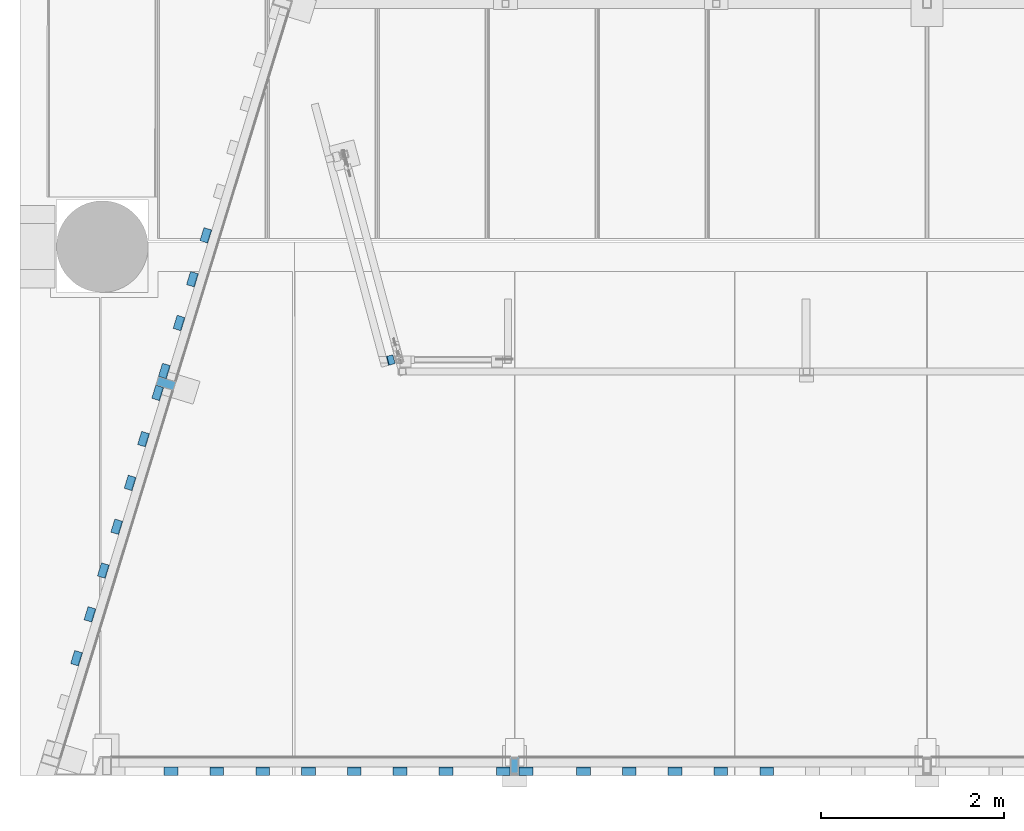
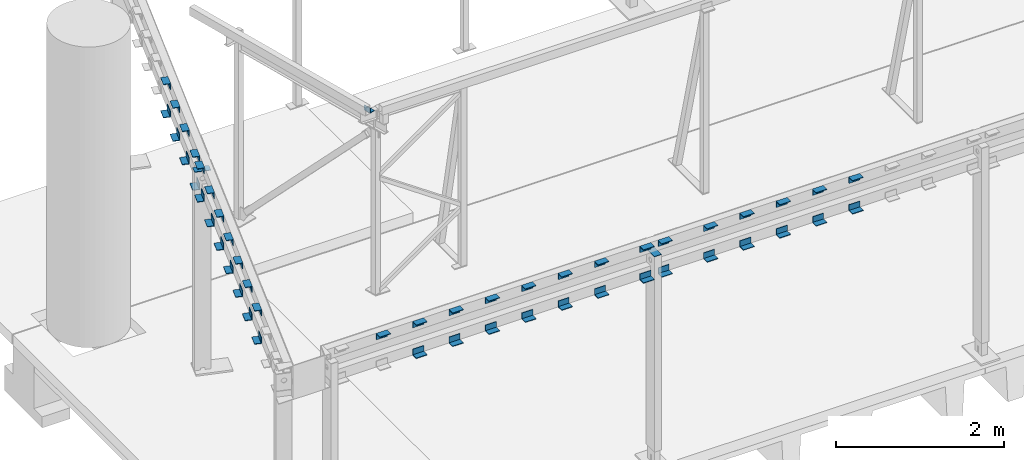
# One storey, part 12 of 19: 52 beams.
"""IFC2X3 building model written with IfcOpenShell, lengths in millimetres."""

from ifc_helpers import new_model, entity, si_unit, converted_unit, derived_unit, direction, frame, origin_with_axes, place, context, subcontext, project, spatial, faceted_brep, material, type_object, element, save


model = new_model("IFC2X3")

# Units and contexts
model_context = context("Model", 3, precision=0.01, world=frame((0.0, 4.29681676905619e-09, 0.0)), true_north=direction((4.01073788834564e-13, 1.0)))
plan_context = context("Plan", 3, precision=0.01, world=frame((0.0, 4.29681676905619e-09, 0.0)), true_north=direction((4.01073788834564e-13, 1.0)))
body_context = subcontext(model_context, "Body", "Model", "MODEL_VIEW")
ifc_project = project(units=[converted_unit("PLANEANGLEUNIT", "DEGREE", entity("IfcPositiveLengthMeasure", 0.0174532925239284), si_unit("PLANEANGLEUNIT", "RADIAN"), dimensions=[0, 0, 0, 0, 0, 0, 0]), si_unit("AREAUNIT", "SQUARE_METRE"), si_unit("LENGTHUNIT", "METRE", prefix="MILLI"), si_unit("MASSUNIT", "GRAM", prefix="KILO"), si_unit("POWERUNIT", "WATT"), si_unit("PRESSUREUNIT", "PASCAL", prefix="KILO"), si_unit("FORCEUNIT", "NEWTON", prefix="KILO"), si_unit("ELECTRICVOLTAGEUNIT", "VOLT"), si_unit("ELECTRICCURRENTUNIT", "AMPERE"), si_unit("THERMODYNAMICTEMPERATUREUNIT", "DEGREE_CELSIUS"), si_unit("TIMEUNIT", "SECOND"), si_unit("VOLUMEUNIT", "CUBIC_METRE"), derived_unit("LINEARVELOCITYUNIT", [(si_unit("LENGTHUNIT", "METRE"), 1), (si_unit("TIMEUNIT", "SECOND"), -1)]), derived_unit("VOLUMETRICFLOWRATEUNIT", [(si_unit("VOLUMEUNIT", "CUBIC_METRE"), 1), (si_unit("TIMEUNIT", "SECOND"), -1)]), derived_unit("THERMALTRANSMITTANCEUNIT", [(si_unit("POWERUNIT", "WATT"), 1), (si_unit("THERMODYNAMICTEMPERATUREUNIT", "KELVIN"), -1), (si_unit("AREAUNIT", "SQUARE_METRE"), -1)]), derived_unit("SOUNDPRESSUREUNIT", [(si_unit("PRESSUREUNIT", "PASCAL"), 1)])], contexts=[model_context, plan_context])

# Site, building, storey
site_placement = place(None, frame((0.0, -4.29681676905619e-09, 0.0), z_axis=(0.0, 0.0, 1.0), x_axis=(1.0, 0.0, 0.0)))
site = spatial("IfcSite", under=ifc_project, at=site_placement, Name="Gardermoen", CompositionType="ELEMENT")
building_placement = place(site_placement, frame((0.0, 4.29681676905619e-09, 0.0), z_axis=(0.0, 0.0, 1.0), x_axis=(1.0, 0.0, 0.0)))
building = spatial("IfcBuilding", under=site, at=building_placement, Name="TI", CompositionType="ELEMENT")
storey_placement = place(building_placement, origin_with_axes())
storey = spatial("IfcBuildingStorey", under=building, at=storey_placement, Name="F", CompositionType="ELEMENT", Elevation=0.0)

# Beams
ifc_material_1 = material(Name="STEEL/S355")
beam_type_1 = type_object("IfcBeamType", Name="PL8*100", PredefinedType="NOTDEFINED")
beam_1_placement = place(storey_placement, frame((587450.000043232, 569930.0, 213740.999618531), z_axis=(1.0, 0.0, 0.0), x_axis=(0.0, -1.0, 0.0)))
element("IfcBeam", 1, at=beam_1_placement, inside=storey, type_object=beam_type_1, material=ifc_material_1, Name="STÅLBJELKE", ObjectType="PL8*100", context=body_context, shape_type="Brep", body=[
    faceted_brep([(-5.82076609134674e-11, -3.99999999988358, 0.0), (3.95812094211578e-09, -3.99999999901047, 100.000000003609), (4.30736690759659e-09, 4.00000000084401, 100.000000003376), (-5.82076609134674e-11, 4.00000000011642, -5.82076609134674e-11), (199.999999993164, -4.0, 99.9999999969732), (199.999999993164, 4.0, 99.9999999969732), (200.0, -4.0, -1.97906047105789e-09), (200.0, 4.00000000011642, -1.62981450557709e-09)], [[[0, 1, 2, 3]], [[1, 4, 5, 2]], [[4, 6, 7, 5]], [[6, 0, 3, 7]], [[5, 7, 3, 2]], [[6, 4, 1, 0]]]),
])
beam_2_placement = place(storey_placement, frame((583804.084982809, 574025.269022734, 213741.000686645), z_axis=(-0.956304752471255, 0.292371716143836, 0.0), x_axis=(-0.292371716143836, -0.956304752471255, 0.0)))
element("IfcBeam", 2, at=beam_2_placement, inside=storey, type_object=beam_type_1, material=ifc_material_1, Name="STÅLBJELKE", ObjectType="PL8*100", context=body_context, shape_type="Brep", body=[
    faceted_brep([(-5.82076609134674e-11, -3.99999999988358, 0.0), (3.84170562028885e-09, -4.0, 199.999999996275), (3.84170562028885e-09, 4.0, 199.999999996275), (-5.82076609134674e-11, 4.00000000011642, -5.82076609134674e-11), (100.000000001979, -4.0, 199.999999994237), (100.000000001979, 4.0, 199.999999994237), (100.0, -4.0, 0.0), (100.0, 4.0, 0.0)], [[[0, 1, 2, 3]], [[1, 4, 5, 2]], [[4, 6, 7, 5]], [[6, 0, 3, 7]], [[5, 7, 3, 2]], [[6, 4, 1, 0]]]),
])
beam_type_2 = type_object("IfcBeamType", Name="L90*9", PredefinedType="NOTDEFINED")
for number, where, z_axis, x_axis in (
    (3, (583815.959533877, 574594.137220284, 213450.001068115), (-0.956310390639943, 0.292353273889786, -5.79999804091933e-08), (0.292353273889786, 0.956310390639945, -3.30052303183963e-14)),
    (4, (583815.959533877, 574594.137220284, 213850.001068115), (0.0, 0.0, -1.0), (0.292353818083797, 0.956310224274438, 0.0)),
    (5, (583962.139533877, 575072.297220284, 213450.001068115), (-0.956310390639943, 0.292353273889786, -5.79999804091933e-08), (0.292353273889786, 0.956310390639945, -3.30052303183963e-14)),
    (6, (583962.139533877, 575072.297220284, 213850.001068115), (0.0, 0.0, -1.0), (0.292353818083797, 0.956310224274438, 0.0)),
    (7, (584108.319533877, 575550.457220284, 213450.001068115), (-0.956310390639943, 0.292353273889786, -5.79999804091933e-08), (0.292353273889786, 0.956310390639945, -3.30052303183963e-14)),
    (8, (584108.319533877, 575550.457220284, 213850.001068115), (0.0, 0.0, -1.0), (0.292353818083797, 0.956310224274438, 0.0)),
    (9, (582697.629533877, 570936.277220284, 213450.001068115), (-0.956310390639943, 0.292353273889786, -5.79999804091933e-08), (0.292353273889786, 0.956310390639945, -3.30052303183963e-14)),
    (10, (582697.629533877, 570936.277220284, 213850.001068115), (0.0, 0.0, -1.0), (0.292353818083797, 0.956310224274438, 0.0)),
    (11, (582843.809533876, 571414.437220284, 213450.001068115), (-0.956310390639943, 0.292353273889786, -5.79999804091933e-08), (0.292353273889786, 0.956310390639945, -3.30052303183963e-14)),
    (12, (582843.809533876, 571414.437220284, 213850.001068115), (0.0, 0.0, -1.0), (0.292353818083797, 0.956310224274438, 0.0)),
    (13, (583428.529533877, 573327.077220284, 213450.001068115), (-0.956310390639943, 0.292353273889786, -5.79999804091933e-08), (0.292353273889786, 0.956310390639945, -3.30052303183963e-14)),
    (14, (583428.529533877, 573327.077220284, 213850.001068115), (0.0, 0.0, -1.0), (0.292353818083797, 0.956310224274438, 0.0)),
    (15, (583282.349533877, 572848.917220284, 213450.001068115), (-0.956310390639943, 0.292353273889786, -5.79999804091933e-08), (0.292353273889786, 0.956310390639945, -3.30052303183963e-14)),
    (16, (583282.349533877, 572848.917220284, 213850.001068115), (0.0, 0.0, -1.0), (0.292353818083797, 0.956310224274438, 0.0)),
    (17, (583136.169533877, 572370.757220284, 213450.001068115), (-0.956310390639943, 0.292353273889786, -5.79999804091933e-08), (0.292353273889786, 0.956310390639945, -3.30052303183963e-14)),
    (18, (583136.169533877, 572370.757220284, 213850.001068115), (0.0, 0.0, -1.0), (0.292353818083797, 0.956310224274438, 0.0)),
    (19, (583824.999978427, 569774.999964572, 213850.001068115), (0.0, 0.0, -1.0), (-0.999999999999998, 5.80000057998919e-08, 0.0)),
    (20, (584324.999978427, 569774.999964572, 213450.001068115), (-5.80000057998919e-08, -0.999999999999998, 0.0), (-0.999999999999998, 5.80000057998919e-08, 0.0)),
    (21, (584324.999978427, 569774.999964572, 213850.001068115), (0.0, 0.0, -1.0), (-0.999999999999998, 5.80000057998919e-08, 0.0)),
    (22, (584824.999978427, 569774.999964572, 213450.001068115), (-5.80000057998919e-08, -0.999999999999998, 0.0), (-0.999999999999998, 5.80000057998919e-08, 0.0)),
    (23, (584824.999978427, 569774.999964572, 213850.001068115), (0.0, 0.0, -1.0), (-0.999999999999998, 5.80000057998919e-08, 0.0)),
    (24, (586824.999978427, 569774.999964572, 213450.001068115), (-5.80000057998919e-08, -0.999999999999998, 0.0), (-0.999999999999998, 5.80000057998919e-08, 0.0)),
    (25, (586824.999978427, 569774.999964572, 213850.001068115), (0.0, 0.0, -1.0), (-0.999999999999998, 5.80000057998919e-08, 0.0)),
    (26, (586324.999978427, 569774.999964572, 213450.001068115), (-5.80000057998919e-08, -0.999999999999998, 0.0), (-0.999999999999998, 5.80000057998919e-08, 0.0)),
    (27, (586324.999978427, 569774.999964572, 213850.001068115), (0.0, 0.0, -1.0), (-0.999999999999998, 5.80000057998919e-08, 0.0)),
    (28, (585824.999978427, 569774.999964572, 213450.001068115), (-5.80000057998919e-08, -0.999999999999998, 0.0), (-0.999999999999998, 5.80000057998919e-08, 0.0)),
    (29, (585824.999978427, 569774.999964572, 213850.001068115), (0.0, 0.0, -1.0), (-0.999999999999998, 5.80000057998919e-08, 0.0)),
    (30, (585324.999978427, 569774.999964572, 213450.001068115), (-5.80000057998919e-08, -0.999999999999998, 0.0), (-0.999999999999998, 5.80000057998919e-08, 0.0)),
    (31, (585324.999978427, 569774.999964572, 213850.001068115), (0.0, 0.0, -1.0), (-0.999999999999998, 5.80000057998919e-08, 0.0)),
    (32, (588324.999978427, 569774.999964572, 213450.001068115), (-5.80000057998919e-08, -0.999999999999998, 0.0), (-0.999999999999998, 5.80000057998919e-08, 0.0)),
    (33, (588324.999978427, 569774.999964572, 213850.001068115), (0.0, 0.0, -1.0), (-0.999999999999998, 5.80000057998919e-08, 0.0)),
    (34, (588824.999978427, 569774.999964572, 213450.001068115), (-5.80000057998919e-08, -0.999999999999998, 0.0), (-0.999999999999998, 5.80000057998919e-08, 0.0)),
    (35, (588824.999978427, 569774.999964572, 213850.001068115), (0.0, 0.0, -1.0), (-0.999999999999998, 5.80000057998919e-08, 0.0)),
    (36, (589324.999978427, 569774.999964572, 213450.001068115), (-5.80000057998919e-08, -0.999999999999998, 0.0), (-0.999999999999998, 5.80000057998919e-08, 0.0)),
    (37, (589324.999978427, 569774.999964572, 213850.001068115), (0.0, 0.0, -1.0), (-0.999999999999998, 5.80000057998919e-08, 0.0)),
    (38, (590324.999978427, 569774.999964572, 213450.001068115), (-5.80000057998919e-08, -0.999999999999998, 0.0), (-0.999999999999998, 5.80000057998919e-08, 0.0)),
    (39, (590324.999978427, 569774.999964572, 213850.001068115), (0.0, 0.0, -1.0), (-0.999999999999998, 5.80000057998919e-08, 0.0)),
    (40, (589824.999978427, 569774.999964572, 213450.001068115), (-5.80000057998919e-08, -0.999999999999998, 0.0), (-0.999999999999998, 5.80000057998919e-08, 0.0)),
    (41, (589824.999978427, 569774.999964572, 213850.001068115), (0.0, 0.0, -1.0), (-0.999999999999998, 5.80000057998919e-08, 0.0)),
    (42, (583655.859533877, 574070.577220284, 213450.001068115), (-0.956310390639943, 0.292353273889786, -5.79999804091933e-08), (0.292353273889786, 0.956310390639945, -3.30052303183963e-14)),
    (43, (583655.859533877, 574070.577220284, 213850.001068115), (0.0, 0.0, -1.0), (0.292353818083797, 0.956310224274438, 0.0)),
    (44, (583582.779533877, 573831.507220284, 213450.001068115), (-0.956310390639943, 0.292353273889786, -5.79999804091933e-08), (0.292353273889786, 0.956310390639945, -3.30052303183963e-14)),
    (45, (583582.779533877, 573831.507220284, 213850.001068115), (0.0, 0.0, -1.0), (0.292353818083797, 0.956310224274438, 0.0)),
    (46, (582989.989533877, 571892.597220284, 213450.001068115), (-0.956310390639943, 0.292353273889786, -5.79999804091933e-08), (0.292353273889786, 0.956310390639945, -3.30052303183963e-14)),
    (47, (582989.989533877, 571892.597220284, 213850.001068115), (0.0, 0.0, -1.0), (0.292353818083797, 0.956310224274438, 0.0)),
    (48, (587699.999978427, 569774.999964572, 213450.001068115), (-5.80000057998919e-08, -0.999999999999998, 0.0), (-0.999999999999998, 5.80000057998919e-08, 0.0)),
    (49, (587699.999978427, 569774.999964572, 213850.001068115), (0.0, 0.0, -1.0), (-0.999999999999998, 5.80000057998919e-08, 0.0)),
    (50, (587449.999978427, 569774.999964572, 213450.001068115), (-5.80000057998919e-08, -0.999999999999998, 0.0), (-0.999999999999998, 5.80000057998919e-08, 0.0)),
    (51, (587449.999978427, 569774.999964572, 213850.001068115), (0.0, 0.0, -1.0), (-0.999999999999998, 5.80000057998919e-08, 0.0)),
):
    element("IfcBeam", number, at=place(storey_placement, frame(where, z_axis=z_axis, x_axis=x_axis)), inside=storey, type_object=beam_type_2, material=ifc_material_1, Name="STÅLBJELKE", ObjectType="L90*9", context=body_context, shape_type="Brep", body=[
        faceted_brep([(0.0, 45.0, -45.0), (0.0, 45.0, 45.0), (149.994660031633, 45.0, 44.9999999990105), (149.994660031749, 45.0, -44.9999999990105), (8.14907252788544e-10, 36.0, 44.9999999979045), (149.994660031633, 36.0, 44.9999999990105), (-4.65661287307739e-10, 36.0, -35.9999999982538), (149.994660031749, 36.0, -35.9999999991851), (-4.65661287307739e-10, -45.0, -35.9999999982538), (149.994660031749, -45.0, -35.9999999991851), (0.0, -45.0, -45.0), (149.994660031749, -45.0, -44.9999999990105)], [[[0, 1, 2, 3]], [[1, 4, 5, 2]], [[4, 6, 7, 5]], [[6, 8, 9, 7]], [[8, 10, 11, 9]], [[10, 0, 3, 11]], [[5, 7, 9, 11, 3, 2]], [[10, 8, 6, 4, 1, 0]]]),
    ])
ifc_material_2 = material(Name="STEEL/S355J0")
beam_type_3 = type_object("IfcBeamType", Name="L75*8", PredefinedType="NOTDEFINED")
beam_3_placement = place(storey_placement, frame((586159.890924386, 574213.551604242, 213615.499732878), z_axis=(-2.58819226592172e-10, 9.65933660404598e-10, 1.0), x_axis=(-0.258817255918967, 0.965926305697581, -1.00000761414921e-09)))
element("IfcBeam", 52, at=beam_3_placement, inside=storey, type_object=beam_type_3, material=ifc_material_2, Name="STÅLBJELKE", ObjectType="L75*8", context=body_context, shape_type="Brep", body=[
    faceted_brep([(1.10594555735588e-09, 37.5, -37.4999999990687), (-1.33877620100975e-09, 37.5, 37.4999999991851), (100.000000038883, 37.5000000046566, 37.5000000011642), (100.000000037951, 37.5000000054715, -37.4999999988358), (-1.33877620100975e-09, 29.5, 37.4999999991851), (100.000000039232, 29.500000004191, 37.500000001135), (8.73114913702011e-10, 29.5, -29.4999999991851), (100.000000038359, 29.5000000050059, -29.499999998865), (8.73114913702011e-10, -37.5, -29.4999999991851), (100.000000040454, -37.499999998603, -29.4999999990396), (1.10594555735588e-09, -37.5, -37.4999999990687), (100.00000004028, -37.4999999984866, -37.4999999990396)], [[[0, 1, 2, 3]], [[1, 4, 5, 2]], [[4, 6, 7, 5]], [[6, 8, 9, 7]], [[8, 10, 11, 9]], [[10, 0, 3, 11]], [[5, 7, 9, 11, 3, 2]], [[10, 8, 6, 4, 1, 0]]]),
])

save(model, "model.ifc")
